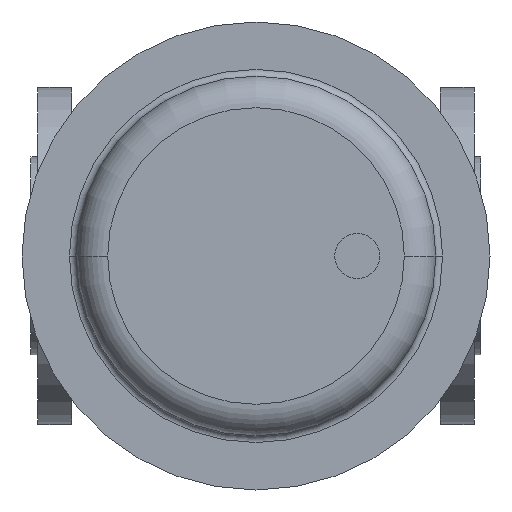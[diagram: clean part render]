
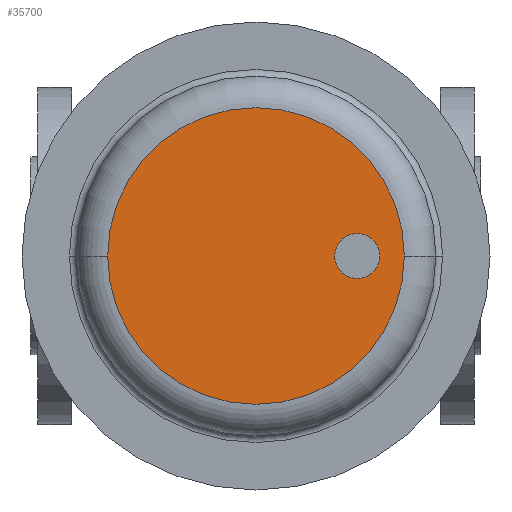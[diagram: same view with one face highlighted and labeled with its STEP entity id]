
A CAD part, front view. The second image highlights one B-rep face of the part: STEP entity #35700.
In plain terms, the highlighted planar face has unit normal (0, -1, 0).
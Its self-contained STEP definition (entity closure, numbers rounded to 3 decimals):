
#35160=CARTESIAN_POINT('',(165.93,-477.,0.));
#35170=VERTEX_POINT('',#35160);
#35200=CARTESIAN_POINT('',(100.,-477.,0.));
#35210=DIRECTION('',(0.,1.,0.));
#35220=DIRECTION('',(1.,0.,0.));
#35230=AXIS2_PLACEMENT_3D('',#35200,#35210,#35220);
#35240=CIRCLE('',#35230,65.93);
#35250=CARTESIAN_POINT('',(100.,-477.,65.93));
#35260=VERTEX_POINT('',#35250);
#35270=EDGE_CURVE('',#35260,#35170,#35240,.T.);
#35290=CARTESIAN_POINT('',(34.07,-477.,0.));
#35300=VERTEX_POINT('',#35290);
#35310=EDGE_CURVE('',#35300,#35260,#35240,.T.);
#35440=CARTESIAN_POINT('',(132.965,-477.,0.));
#35450=DIRECTION('',(0.,-1.,0.));
#35460=DIRECTION('',(-1.,0.,0.));
#35470=AXIS2_PLACEMENT_3D('',#35440,#35450,#35460);
#35480=PLANE('',#35470);
#35490=CARTESIAN_POINT('',(145.,-477.,0.));
#35500=DIRECTION('',(0.,1.,0.));
#35510=DIRECTION('',(1.,0.,0.));
#35520=AXIS2_PLACEMENT_3D('',#35490,#35500,#35510);
#35530=CIRCLE('',#35520,10.);
#35540=CARTESIAN_POINT('',(155.,-477.,0.));
#35550=VERTEX_POINT('',#35540);
#35560=CARTESIAN_POINT('',(135.,-477.,0.));
#35570=VERTEX_POINT('',#35560);
#35580=EDGE_CURVE('',#35550,#35570,#35530,.T.);
#35590=ORIENTED_EDGE('',*,*,#35580,.T.);
#35600=EDGE_CURVE('',#35570,#35550,#35530,.T.);
#35610=ORIENTED_EDGE('',*,*,#35600,.T.);
#35620=EDGE_LOOP('',(#35610,#35590));
#35630=FACE_BOUND('',#35620,.T.);
#35640=ORIENTED_EDGE('',*,*,#35270,.F.);
#35650=EDGE_CURVE('',#35170,#35300,#35240,.T.);
#35660=ORIENTED_EDGE('',*,*,#35650,.F.);
#35670=ORIENTED_EDGE('',*,*,#35310,.F.);
#35680=EDGE_LOOP('',(#35670,#35660,#35640));
#35690=FACE_OUTER_BOUND('',#35680,.T.);
#35700=ADVANCED_FACE('',(#35630,#35690),#35480,.T.);
